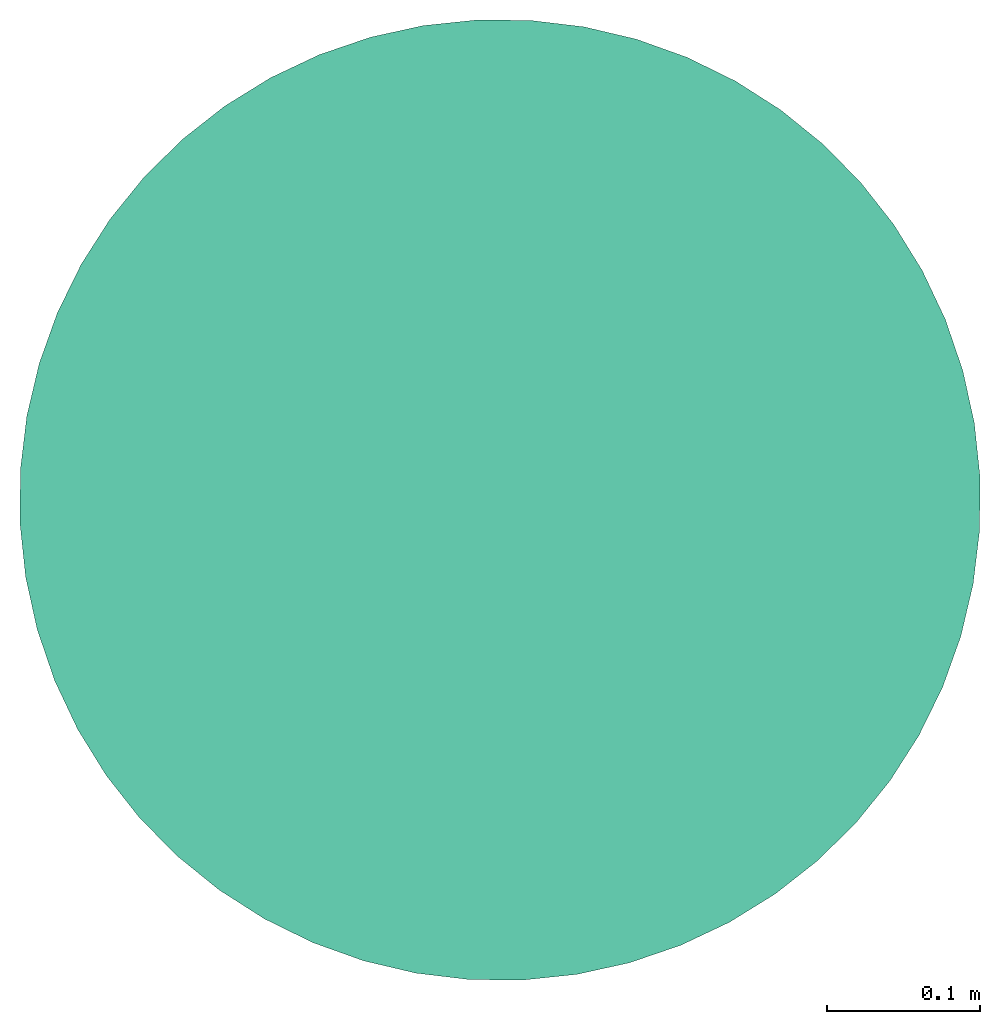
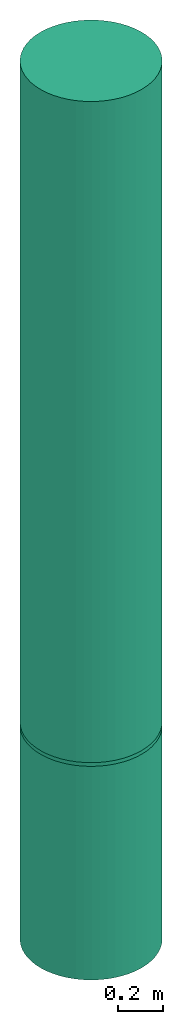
# One storey: 2 flow segments, 1 flow fitting.
"""IFC2X3 building model written with IfcOpenShell, lengths in millimetres."""

from ifc_helpers import new_model, entity, si_unit, converted_unit, derived_unit, direction, frame, frame_2d, origin, origin_with_axes, origin_2d_with_axis, place, context, subcontext, project, spatial, circle, extrude, source, transform, mapped, material, type_object, element, save


model = new_model("IFC2X3")

# Units and contexts
plan_context = context("Plan", 3, precision=1e-05, world=origin_with_axes())
model_context = context("Model", 3, precision=0.01, world=origin(), true_north=direction((6.12323399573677e-17, 1.0)))
body_context = subcontext(model_context, "Body", "Model", "MODEL_VIEW")
ifc_project = project(units=[converted_unit("PLANEANGLEUNIT", "DEGREE", entity("IfcPositiveLengthMeasure", 0.0174532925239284), si_unit("PLANEANGLEUNIT", "RADIAN"), dimensions=[0, 0, 0, 0, 0, 0, 0]), si_unit("AREAUNIT", "SQUARE_METRE"), si_unit("LENGTHUNIT", "METRE", prefix="MILLI"), si_unit("MASSUNIT", "GRAM", prefix="KILO"), si_unit("POWERUNIT", "WATT"), si_unit("PRESSUREUNIT", "PASCAL", prefix="KILO"), si_unit("FORCEUNIT", "NEWTON", prefix="KILO"), si_unit("ELECTRICVOLTAGEUNIT", "VOLT"), si_unit("ELECTRICCURRENTUNIT", "AMPERE"), si_unit("THERMODYNAMICTEMPERATUREUNIT", "DEGREE_CELSIUS"), si_unit("TIMEUNIT", "SECOND"), si_unit("VOLUMEUNIT", "CUBIC_METRE"), derived_unit("LINEARVELOCITYUNIT", [(si_unit("LENGTHUNIT", "METRE"), 1), (si_unit("TIMEUNIT", "SECOND"), -1)]), derived_unit("VOLUMETRICFLOWRATEUNIT", [(si_unit("VOLUMEUNIT", "CUBIC_METRE"), 1), (si_unit("TIMEUNIT", "SECOND"), -1)]), derived_unit("THERMALTRANSMITTANCEUNIT", [(si_unit("POWERUNIT", "WATT"), 1), (si_unit("THERMODYNAMICTEMPERATUREUNIT", "KELVIN"), -1), (si_unit("AREAUNIT", "SQUARE_METRE"), -1)]), derived_unit("SOUNDPRESSUREUNIT", [(si_unit("PRESSUREUNIT", "PASCAL"), 1)])], contexts=[model_context, plan_context])

# Site, building, storey
site_placement = place(None, frame((-0.00071070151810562, 0.00438415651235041, 0.0), z_axis=(0.0, 0.0, 1.0), x_axis=(-0.160236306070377, 0.987078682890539, 0.0)))
site = spatial("IfcSite", under=ifc_project, at=site_placement, Name="Default", CompositionType="ELEMENT")
building_placement = place(site_placement, origin_with_axes())
building = spatial("IfcBuilding", under=site, at=building_placement, CompositionType="ELEMENT")
storey_placement = place(building_placement, frame((0.0, 0.0, 48160.0), z_axis=(0.0, 0.0, 1.0), x_axis=(1.0, 0.0, 0.0)))
storey = spatial("IfcBuildingStorey", under=building, at=storey_placement, Name="Nivå C", CompositionType="ELEMENT", Elevation=48160.0)

# Flow fitting
ifc_material = material(Name="<Unnamed>")
duct_fitting_type = type_object("IfcDuctFittingType", Name="magicirc_joint_1:magicirc_joint_001", PredefinedType="NOTDEFINED", material=ifc_material)
shared_shape = source(origin(), body_context, "Body", "SweptSolid", [
    extrude(circle(Radius=315.0, at=frame_2d((1.34514652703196e-15, -1.48811324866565e-12), x_axis=(1.0, 0.0))), frame((0.0, 0.0, 0.0), z_axis=(1.0, 0.0, 0.0), x_axis=(0.0, 1.0, 0.0)), (0.0, 0.0, 1.0), 20.0000000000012),
])
flow_fitting_placement = place(storey_placement, frame((765132.590423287, -502496.834704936, 10813.1475251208), z_axis=(0.0, 1.0, 0.0), x_axis=(0.0, 0.0, 1.0)))
element("IfcFlowFitting", 1, at=flow_fitting_placement, inside=storey, type_object=duct_fitting_type, material=ifc_material, Name="magicirc_joint_1:magicirc_joint_001", ObjectType="magicirc_joint_1:magicirc_joint_001", context=body_context, shape_type="MappedRepresentation", body=[
    mapped(shared_shape, transform((0.0, 0.0, 0.0), scale=1.0)),
])

# Flow segments
duct_segment_type = type_object("IfcDuctSegmentType", Name="Round Duct:KK001T - Spiro kanaler, Forsinket stål", PredefinedType="NOTDEFINED")
flow_segment_1_placement = place(storey_placement, origin_with_axes())
element("IfcFlowSegment", 2, at=flow_segment_1_placement, inside=storey, type_object=duct_segment_type, Name="Round Duct:KK001T - Spiro kanaler, Forsinket stål", ObjectType="Round Duct:KK001T - Spiro kanaler, Forsinket stål", context=body_context, shape_type="SweptSolid", body=[
    extrude(circle(Radius=315.0, at=origin_2d_with_axis()), frame((765132.590423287, -502496.834704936, 10833.1475251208), z_axis=(0.0, 0.0, 1.0), x_axis=(-1.0, 0.0, 0.0)), (0.0, 0.0, 1.0), 3576.85247487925),
])
flow_segment_2_placement = place(storey_placement, origin_with_axes())
element("IfcFlowSegment", 3, at=flow_segment_2_placement, inside=storey, type_object=duct_segment_type, Name="Round Duct:KK001T - Spiro kanaler, Forsinket stål", ObjectType="Round Duct:KK001T - Spiro kanaler, Forsinket stål", context=body_context, shape_type="SweptSolid", body=[
    extrude(circle(Radius=315.0, at=origin_2d_with_axis()), frame((765132.590423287, -502496.834704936, 9657.50000000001), z_axis=(0.0, 0.0, 1.0), x_axis=(-1.0, 0.0, 0.0)), (0.0, 0.0, 1.0), 1155.64752512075),
])

save(model, "model.ifc")
